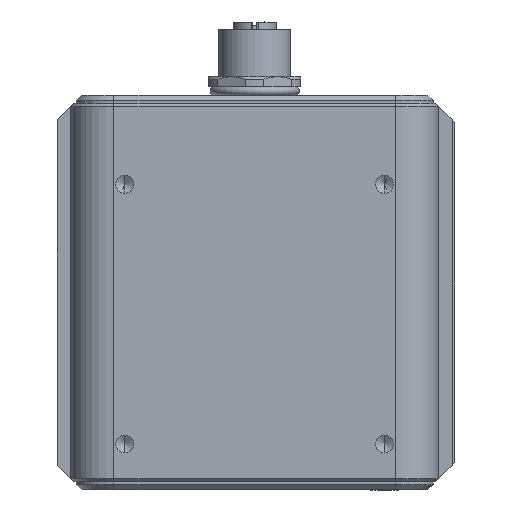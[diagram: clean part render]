
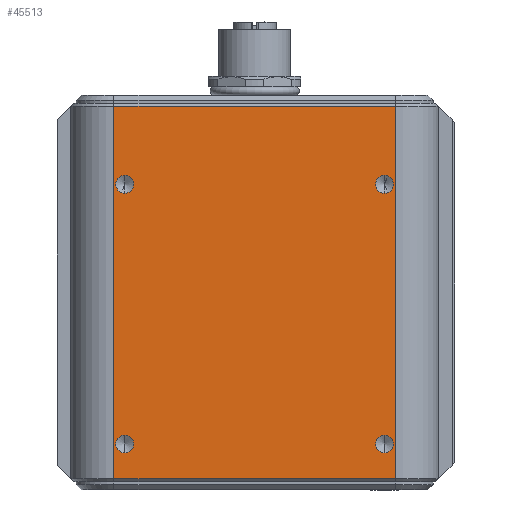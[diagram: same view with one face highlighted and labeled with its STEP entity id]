
A CAD part, left-side view. The second image highlights one B-rep face of the part: STEP entity #45513.
In plain terms, the highlighted planar face has unit normal (-1, 0, 0).
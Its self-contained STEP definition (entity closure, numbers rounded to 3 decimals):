
#561 = CIRCLE ( 'NONE', #42786, 1.65 ) ;
#880 = VERTEX_POINT ( 'NONE', #25345 ) ;
#1502 = CARTESIAN_POINT ( 'NONE',  ( -74., -26., -70.5 ) ) ;
#1957 = AXIS2_PLACEMENT_3D ( 'NONE', #19846, #49285, #66207 ) ;
#4203 = CIRCLE ( 'NONE', #21084, 1.65 ) ;
#4811 = VERTEX_POINT ( 'NONE', #49157 ) ;
#4889 = DIRECTION ( 'NONE',  ( -1., 0., 0. ) ) ;
#5207 = VERTEX_POINT ( 'NONE', #29027 ) ;
#5316 = DIRECTION ( 'NONE',  ( -1., 0., 0. ) ) ;
#6025 = CIRCLE ( 'NONE', #45806, 1.65 ) ;
#6310 = CIRCLE ( 'NONE', #37699, 1.65 ) ;
#6692 = DIRECTION ( 'NONE',  ( 0., 0., 1. ) ) ;
#6939 = ORIENTED_EDGE ( 'NONE', *, *, #12270, .F. ) ;
#7787 = AXIS2_PLACEMENT_3D ( 'NONE', #23312, #34282, #6692 ) ;
#9154 = ORIENTED_EDGE ( 'NONE', *, *, #43782, .F. ) ;
#9483 = DIRECTION ( 'NONE',  ( 0., 0., 1. ) ) ;
#9896 = EDGE_LOOP ( 'NONE', ( #28458, #34695 ) ) ;
#11711 = DIRECTION ( 'NONE',  ( 0., 0., 1. ) ) ;
#11921 = EDGE_CURVE ( 'NONE', #48742, #25977, #13828, .T. ) ;
#12270 = EDGE_CURVE ( 'NONE', #25977, #48742, #561, .T. ) ;
#12524 = CARTESIAN_POINT ( 'NONE',  ( -74., 24., -62. ) ) ;
#13015 = ORIENTED_EDGE ( 'NONE', *, *, #28089, .F. ) ;
#13828 = CIRCLE ( 'NONE', #7787, 1.65 ) ;
#13852 = EDGE_CURVE ( 'NONE', #29059, #61559, #58875, .T. ) ;
#14269 = EDGE_LOOP ( 'NONE', ( #65440, #9154 ) ) ;
#15085 = VERTEX_POINT ( 'NONE', #47954 ) ;
#18850 = CIRCLE ( 'NONE', #1957, 1.65 ) ;
#19588 = ORIENTED_EDGE ( 'NONE', *, *, #35390, .T. ) ;
#19846 = CARTESIAN_POINT ( 'NONE',  ( -74., -24., -62. ) ) ;
#20561 = ORIENTED_EDGE ( 'NONE', *, *, #38950, .T. ) ;
#21084 = AXIS2_PLACEMENT_3D ( 'NONE', #59997, #31338, #54327 ) ;
#22211 = EDGE_LOOP ( 'NONE', ( #39291, #30711, #20561, #19588 ) ) ;
#22266 = LINE ( 'NONE', #33251, #57766 ) ;
#22766 = VERTEX_POINT ( 'NONE', #45518 ) ;
#23312 = CARTESIAN_POINT ( 'NONE',  ( -74., 24., -14. ) ) ;
#23680 = DIRECTION ( 'NONE',  ( 1., 0., 0. ) ) ;
#23837 = CARTESIAN_POINT ( 'NONE',  ( -74., -26., 0.4 ) ) ;
#24251 = CARTESIAN_POINT ( 'NONE',  ( -74., -26., -68.4 ) ) ;
#24551 = DIRECTION ( 'NONE',  ( 0., 0., 1. ) ) ;
#25316 = CARTESIAN_POINT ( 'NONE',  ( -74., -24., -14. ) ) ;
#25345 = CARTESIAN_POINT ( 'NONE',  ( -74., -24., -63.65 ) ) ;
#25977 = VERTEX_POINT ( 'NONE', #35660 ) ;
#26556 = EDGE_CURVE ( 'NONE', #880, #4811, #4203, .T. ) ;
#28089 = EDGE_CURVE ( 'NONE', #4811, #880, #18850, .T. ) ;
#28458 = ORIENTED_EDGE ( 'NONE', *, *, #40666, .F. ) ;
#28465 = VECTOR ( 'NONE', #43688, 1000. ) ;
#29027 = CARTESIAN_POINT ( 'NONE',  ( -74., 26., -68.4 ) ) ;
#29059 = VERTEX_POINT ( 'NONE', #64005 ) ;
#29347 = CARTESIAN_POINT ( 'NONE',  ( -74., 34., -70.5 ) ) ;
#30179 = CARTESIAN_POINT ( 'NONE',  ( -74., 24., -15.65 ) ) ;
#30711 = ORIENTED_EDGE ( 'NONE', *, *, #48522, .T. ) ;
#31338 = DIRECTION ( 'NONE',  ( -1., 0., 0. ) ) ;
#33010 = EDGE_CURVE ( 'NONE', #15085, #46298, #6310, .T. ) ;
#33157 = VECTOR ( 'NONE', #41253, 1000. ) ;
#33251 = CARTESIAN_POINT ( 'NONE',  ( -74., 34., 0.4 ) ) ;
#33331 = CARTESIAN_POINT ( 'NONE',  ( -74., -24., -15.65 ) ) ;
#34282 = DIRECTION ( 'NONE',  ( -1., 0., 0. ) ) ;
#34695 = ORIENTED_EDGE ( 'NONE', *, *, #40873, .F. ) ;
#35028 = FACE_BOUND ( 'NONE', #14269, .T. ) ;
#35212 = DIRECTION ( 'NONE',  ( -1., 0., 0. ) ) ;
#35390 = EDGE_CURVE ( 'NONE', #5207, #29059, #40138, .T. ) ;
#35660 = CARTESIAN_POINT ( 'NONE',  ( -74., 24., -12.35 ) ) ;
#35942 = DIRECTION ( 'NONE',  ( 0., 0., 1. ) ) ;
#36866 = VERTEX_POINT ( 'NONE', #51589 ) ;
#37699 = AXIS2_PLACEMENT_3D ( 'NONE', #12524, #35212, #58193 ) ;
#38950 = EDGE_CURVE ( 'NONE', #22766, #5207, #55711, .T. ) ;
#39291 = ORIENTED_EDGE ( 'NONE', *, *, #13852, .T. ) ;
#40138 = LINE ( 'NONE', #24251, #33157 ) ;
#40303 = FACE_BOUND ( 'NONE', #9896, .T. ) ;
#40666 = EDGE_CURVE ( 'NONE', #36866, #64776, #6025, .T. ) ;
#40873 = EDGE_CURVE ( 'NONE', #64776, #36866, #54279, .T. ) ;
#41047 = FACE_OUTER_BOUND ( 'NONE', #22211, .T. ) ;
#41253 = DIRECTION ( 'NONE',  ( 0., -1., 0. ) ) ;
#42786 = AXIS2_PLACEMENT_3D ( 'NONE', #56615, #4889, #11711 ) ;
#43605 = EDGE_LOOP ( 'NONE', ( #6939, #71858 ) ) ;
#43688 = DIRECTION ( 'NONE',  ( 0., 0., -1. ) ) ;
#43762 = CIRCLE ( 'NONE', #65359, 1.65 ) ;
#43782 = EDGE_CURVE ( 'NONE', #46298, #15085, #43762, .T. ) ;
#44971 = DIRECTION ( 'NONE',  ( -1., 0., 0. ) ) ;
#45513 = ADVANCED_FACE ( 'NONE', ( #68197, #35028, #40303, #51600, #41047 ), #58005, .F. ) ;
#45518 = CARTESIAN_POINT ( 'NONE',  ( -74., 26., 0.4 ) ) ;
#45806 = AXIS2_PLACEMENT_3D ( 'NONE', #57421, #5316, #51391 ) ;
#46298 = VERTEX_POINT ( 'NONE', #57829 ) ;
#47954 = CARTESIAN_POINT ( 'NONE',  ( -74., 24., -60.35 ) ) ;
#47977 = DIRECTION ( 'NONE',  ( -1., 0., 0. ) ) ;
#48522 = EDGE_CURVE ( 'NONE', #61559, #22766, #22266, .T. ) ;
#48742 = VERTEX_POINT ( 'NONE', #30179 ) ;
#49157 = CARTESIAN_POINT ( 'NONE',  ( -74., -24., -60.35 ) ) ;
#49285 = DIRECTION ( 'NONE',  ( -1., 0., 0. ) ) ;
#50941 = DIRECTION ( 'NONE',  ( 0., 1., 0. ) ) ;
#51391 = DIRECTION ( 'NONE',  ( 0., 0., 1. ) ) ;
#51589 = CARTESIAN_POINT ( 'NONE',  ( -74., -24., -12.35 ) ) ;
#51600 = FACE_BOUND ( 'NONE', #68240, .T. ) ;
#54279 = CIRCLE ( 'NONE', #71119, 1.65 ) ;
#54327 = DIRECTION ( 'NONE',  ( 0., 0., 1. ) ) ;
#55711 = LINE ( 'NONE', #72297, #28465 ) ;
#55883 = AXIS2_PLACEMENT_3D ( 'NONE', #29347, #23680, #56493 ) ;
#56493 = DIRECTION ( 'NONE',  ( 0., -1., 0. ) ) ;
#56615 = CARTESIAN_POINT ( 'NONE',  ( -74., 24., -14. ) ) ;
#57421 = CARTESIAN_POINT ( 'NONE',  ( -74., -24., -14. ) ) ;
#57766 = VECTOR ( 'NONE', #50941, 1000. ) ;
#57829 = CARTESIAN_POINT ( 'NONE',  ( -74., 24., -63.65 ) ) ;
#58005 = PLANE ( 'NONE',  #55883 ) ;
#58193 = DIRECTION ( 'NONE',  ( 0., 0., 1. ) ) ;
#58433 = VECTOR ( 'NONE', #24551, 1000. ) ;
#58875 = LINE ( 'NONE', #1502, #58433 ) ;
#59997 = CARTESIAN_POINT ( 'NONE',  ( -74., -24., -62. ) ) ;
#61559 = VERTEX_POINT ( 'NONE', #23837 ) ;
#64005 = CARTESIAN_POINT ( 'NONE',  ( -74., -26., -68.4 ) ) ;
#64776 = VERTEX_POINT ( 'NONE', #33331 ) ;
#65359 = AXIS2_PLACEMENT_3D ( 'NONE', #72863, #44971, #9483 ) ;
#65440 = ORIENTED_EDGE ( 'NONE', *, *, #33010, .F. ) ;
#66045 = ORIENTED_EDGE ( 'NONE', *, *, #26556, .F. ) ;
#66207 = DIRECTION ( 'NONE',  ( 0., 0., 1. ) ) ;
#68197 = FACE_BOUND ( 'NONE', #43605, .T. ) ;
#68240 = EDGE_LOOP ( 'NONE', ( #13015, #66045 ) ) ;
#71119 = AXIS2_PLACEMENT_3D ( 'NONE', #25316, #47977, #35942 ) ;
#71858 = ORIENTED_EDGE ( 'NONE', *, *, #11921, .F. ) ;
#72297 = CARTESIAN_POINT ( 'NONE',  ( -74., 26., -70.5 ) ) ;
#72863 = CARTESIAN_POINT ( 'NONE',  ( -74., 24., -62. ) ) ;
